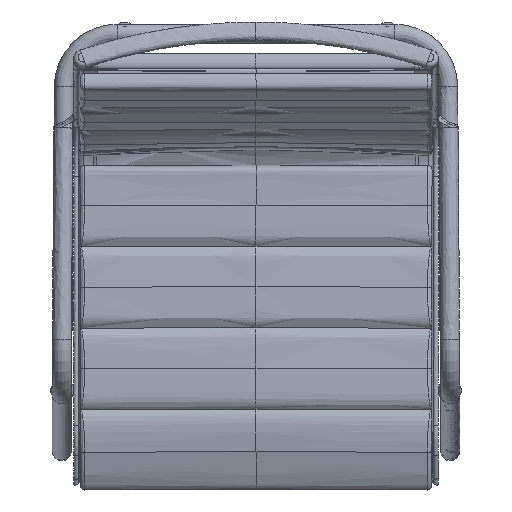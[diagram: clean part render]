
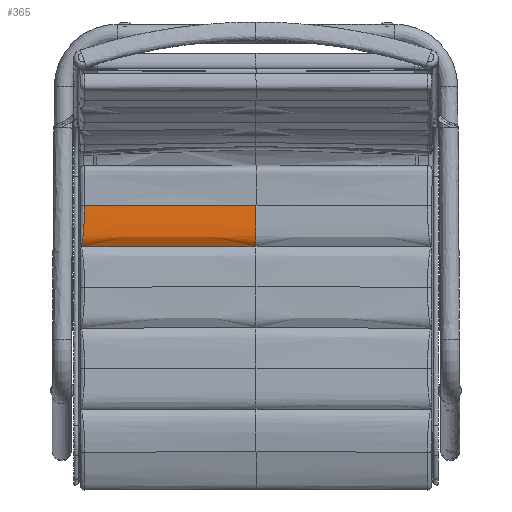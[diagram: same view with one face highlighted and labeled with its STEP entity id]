
A CAD part, top view. The second image highlights one B-rep face of the part: STEP entity #365.
In plain terms, the highlighted free-form (B-spline) face has degree [3, 3] with [7, 10] control points.
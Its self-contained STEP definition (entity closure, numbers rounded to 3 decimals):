
#365=ADVANCED_FACE('',(#889),#8045,.T.);
#889=FACE_OUTER_BOUND('',#1413,.T.);
#1413=EDGE_LOOP('',(#2627,#2628,#2629,#2630));
#2627=ORIENTED_EDGE('',*,*,#4803,.F.);
#2628=ORIENTED_EDGE('',*,*,#4802,.F.);
#2629=ORIENTED_EDGE('',*,*,#4824,.F.);
#2630=ORIENTED_EDGE('',*,*,#4829,.F.);
#4802=EDGE_CURVE('',#7376,#7365,#6006,.T.);
#4803=EDGE_CURVE('',#7365,#7371,#6007,.T.);
#4824=EDGE_CURVE('',#7384,#7376,#6028,.T.);
#4829=EDGE_CURVE('',#7371,#7384,#6033,.T.);
#6006=B_SPLINE_CURVE_WITH_KNOTS('',3,(#29258,#29259,#29260,#29261,#29262,
#29263,#29264,#29265,#29266,#29267),.UNSPECIFIED.,.F.,.F.,(4,1,1,1,1,1,
1,4),(-55.642,-51.005,-46.369,-41.732,
-37.095,-27.821,-18.547,0.),.UNSPECIFIED.);
#6007=B_SPLINE_CURVE_WITH_KNOTS('',3,(#29268,#29269,#29270,#29271,#29272,
#29273,#29274),.UNSPECIFIED.,.F.,.F.,(4,1,1,1,4),(-41.954,-31.455,
-20.956,-10.457,-0.327),.UNSPECIFIED.);
#6028=B_SPLINE_CURVE_WITH_KNOTS('',3,(#29505,#29506,#29507,#29508,#29509),
 .UNSPECIFIED.,.F.,.F.,(4,1,4),(6.,118.5,231.),
 .UNSPECIFIED.);
#6033=B_SPLINE_CURVE_WITH_KNOTS('',3,(#29603,#29604,#29605,#29606,#29607,
#29608,#29609,#29610,#29611,#29612,#29613,#29614,#29615),.UNSPECIFIED.,
 .F.,.F.,(4,1,1,1,1,1,1,1,1,1,4),(0.,2.457,
4.914,7.245,9.576,14.615,19.653,
26.926,34.199,43.778,53.358),
 .UNSPECIFIED.);
#7365=VERTEX_POINT('',#29192);
#7371=VERTEX_POINT('',#29198);
#7376=VERTEX_POINT('',#29203);
#7384=VERTEX_POINT('',#29211);
#8045=B_SPLINE_SURFACE_WITH_KNOTS('',3,3,((#26545,#26546,#26547,#26548,
#26549,#26550,#26551,#26552,#26553,#26554),(#26555,#26556,#26557,#26558,
#26559,#26560,#26561,#26562,#26563,#26564),(#26565,#26566,#26567,#26568,
#26569,#26570,#26571,#26572,#26573,#26574),(#26575,#26576,#26577,#26578,
#26579,#26580,#26581,#26582,#26583,#26584),(#26585,#26586,#26587,#26588,
#26589,#26590,#26591,#26592,#26593,#26594),(#26595,#26596,#26597,#26598,
#26599,#26600,#26601,#26602,#26603,#26604),(#26605,#26606,#26607,#26608,
#26609,#26610,#26611,#26612,#26613,#26614)),.UNSPECIFIED.,.F.,.F.,.F.,(4,
1,1,1,4),(4,1,1,1,1,1,1,4),(0.327,10.734,21.14,
31.547,41.954),(0.,18.547,27.821,
37.095,41.732,46.369,51.005,55.642),
 .UNSPECIFIED.);
#26545=CARTESIAN_POINT('',(-229.199,41.403,449.535));
#26546=CARTESIAN_POINT('',(-229.199,44.948,453.012));
#26547=CARTESIAN_POINT('',(-229.199,51.501,455.561));
#26548=CARTESIAN_POINT('',(-229.199,61.164,456.024));
#26549=CARTESIAN_POINT('',(-229.199,68.606,455.64));
#26550=CARTESIAN_POINT('',(-229.199,76.014,455.257));
#26551=CARTESIAN_POINT('',(-229.199,82.111,454.942));
#26552=CARTESIAN_POINT('',(-229.199,88.571,454.61));
#26553=CARTESIAN_POINT('',(-229.199,93.017,454.379));
#26554=CARTESIAN_POINT('',(-229.198,95.229,454.263));
#26555=CARTESIAN_POINT('',(-210.107,41.475,449.531));
#26556=CARTESIAN_POINT('',(-210.107,45.02,453.008));
#26557=CARTESIAN_POINT('',(-210.108,51.571,455.557));
#26558=CARTESIAN_POINT('',(-210.108,61.232,456.021));
#26559=CARTESIAN_POINT('',(-210.108,68.672,455.637));
#26560=CARTESIAN_POINT('',(-210.108,76.08,455.254));
#26561=CARTESIAN_POINT('',(-210.108,82.175,454.938));
#26562=CARTESIAN_POINT('',(-210.109,88.632,454.608));
#26563=CARTESIAN_POINT('',(-210.108,93.084,454.375));
#26564=CARTESIAN_POINT('',(-210.108,95.295,454.258));
#26565=CARTESIAN_POINT('',(-171.916,41.601,449.525));
#26566=CARTESIAN_POINT('',(-171.916,45.145,453.001));
#26567=CARTESIAN_POINT('',(-171.917,51.694,455.551));
#26568=CARTESIAN_POINT('',(-171.917,61.352,456.014));
#26569=CARTESIAN_POINT('',(-171.917,68.79,455.631));
#26570=CARTESIAN_POINT('',(-171.918,76.197,455.247));
#26571=CARTESIAN_POINT('',(-171.918,82.286,454.932));
#26572=CARTESIAN_POINT('',(-171.919,88.739,454.604));
#26573=CARTESIAN_POINT('',(-171.919,93.205,454.369));
#26574=CARTESIAN_POINT('',(-171.918,95.413,454.25));
#26575=CARTESIAN_POINT('',(-114.62,41.736,449.518));
#26576=CARTESIAN_POINT('',(-114.62,45.279,452.995));
#26577=CARTESIAN_POINT('',(-114.621,51.826,455.544));
#26578=CARTESIAN_POINT('',(-114.621,61.48,456.008));
#26579=CARTESIAN_POINT('',(-114.622,68.915,455.625));
#26580=CARTESIAN_POINT('',(-114.622,76.322,455.241));
#26581=CARTESIAN_POINT('',(-114.623,82.406,454.925));
#26582=CARTESIAN_POINT('',(-114.623,88.854,454.6));
#26583=CARTESIAN_POINT('',(-114.624,93.334,454.362));
#26584=CARTESIAN_POINT('',(-114.623,95.538,454.242));
#26585=CARTESIAN_POINT('',(-57.314,41.817,449.514));
#26586=CARTESIAN_POINT('',(-57.315,45.359,452.99));
#26587=CARTESIAN_POINT('',(-57.315,51.905,455.54));
#26588=CARTESIAN_POINT('',(-57.315,61.557,456.004));
#26589=CARTESIAN_POINT('',(-57.316,68.99,455.621));
#26590=CARTESIAN_POINT('',(-57.316,76.396,455.237));
#26591=CARTESIAN_POINT('',(-57.316,82.477,454.921));
#26592=CARTESIAN_POINT('',(-57.317,88.923,454.598));
#26593=CARTESIAN_POINT('',(-57.317,93.412,454.358));
#26594=CARTESIAN_POINT('',(-57.317,95.614,454.237));
#26595=CARTESIAN_POINT('',(-19.104,41.835,449.513));
#26596=CARTESIAN_POINT('',(-19.104,45.377,452.99));
#26597=CARTESIAN_POINT('',(-19.104,51.923,455.539));
#26598=CARTESIAN_POINT('',(-19.104,61.575,456.003));
#26599=CARTESIAN_POINT('',(-19.104,69.007,455.62));
#26600=CARTESIAN_POINT('',(-19.104,76.413,455.236));
#26601=CARTESIAN_POINT('',(-19.105,82.493,454.921));
#26602=CARTESIAN_POINT('',(-19.105,88.938,454.597));
#26603=CARTESIAN_POINT('',(-19.105,93.429,454.358));
#26604=CARTESIAN_POINT('',(-19.105,95.631,454.235));
#26605=CARTESIAN_POINT('',(0.,41.835,449.513));
#26606=CARTESIAN_POINT('',(0.,45.377,452.99));
#26607=CARTESIAN_POINT('',(0.,51.923,455.539));
#26608=CARTESIAN_POINT('',(0.,61.575,456.003));
#26609=CARTESIAN_POINT('',(0.,69.007,455.62));
#26610=CARTESIAN_POINT('',(0.,76.413,455.236));
#26611=CARTESIAN_POINT('',(0.,82.493,454.921));
#26612=CARTESIAN_POINT('',(0.,88.938,454.597));
#26613=CARTESIAN_POINT('',(0.,93.429,454.358));
#26614=CARTESIAN_POINT('',(0.,95.631,454.235));
#29192=CARTESIAN_POINT('',(0.,41.835,449.513));
#29198=CARTESIAN_POINT('',(-229.199,41.403,449.535));
#29203=CARTESIAN_POINT('',(0.,95.631,454.235));
#29211=CARTESIAN_POINT('',(-225.,95.243,454.262));
#29258=CARTESIAN_POINT('',(0.,95.631,454.235));
#29259=CARTESIAN_POINT('',(0.,93.429,454.358));
#29260=CARTESIAN_POINT('',(0.,88.938,454.597));
#29261=CARTESIAN_POINT('',(0.,82.493,454.921));
#29262=CARTESIAN_POINT('',(0.,76.413,455.236));
#29263=CARTESIAN_POINT('',(0.,69.007,455.62));
#29264=CARTESIAN_POINT('',(0.,61.575,456.003));
#29265=CARTESIAN_POINT('',(0.,51.923,455.539));
#29266=CARTESIAN_POINT('',(0.,45.377,452.99));
#29267=CARTESIAN_POINT('',(0.,41.835,449.513));
#29268=CARTESIAN_POINT('',(0.,41.835,449.513));
#29269=CARTESIAN_POINT('',(-19.273,41.835,449.513));
#29270=CARTESIAN_POINT('',(-57.822,41.817,449.514));
#29271=CARTESIAN_POINT('',(-115.636,41.734,449.518));
#29272=CARTESIAN_POINT('',(-172.762,41.598,449.525));
#29273=CARTESIAN_POINT('',(-210.615,41.473,449.532));
#29274=CARTESIAN_POINT('',(-229.199,41.403,449.535));
#29505=CARTESIAN_POINT('',(-225.,95.243,454.262));
#29506=CARTESIAN_POINT('',(-187.516,95.372,454.253));
#29507=CARTESIAN_POINT('',(-112.529,95.566,454.24));
#29508=CARTESIAN_POINT('',(-37.511,95.631,454.235));
#29509=CARTESIAN_POINT('',(0.,95.631,454.235));
#29603=CARTESIAN_POINT('',(-229.199,41.403,449.535));
#29604=CARTESIAN_POINT('',(-229.066,42.029,450.149));
#29605=CARTESIAN_POINT('',(-228.803,43.38,451.31));
#29606=CARTESIAN_POINT('',(-228.427,45.64,452.765));
#29607=CARTESIAN_POINT('',(-228.071,48.058,453.903));
#29608=CARTESIAN_POINT('',(-227.613,51.511,455.062));
#29609=CARTESIAN_POINT('',(-227.085,56.083,455.821));
#29610=CARTESIAN_POINT('',(-226.467,62.299,455.957));
#29611=CARTESIAN_POINT('',(-225.928,68.894,455.625));
#29612=CARTESIAN_POINT('',(-225.43,76.874,455.213));
#29613=CARTESIAN_POINT('',(-225.084,85.663,454.759));
#29614=CARTESIAN_POINT('',(-225.001,92.051,454.431));
#29615=CARTESIAN_POINT('',(-225.,95.243,454.262));
